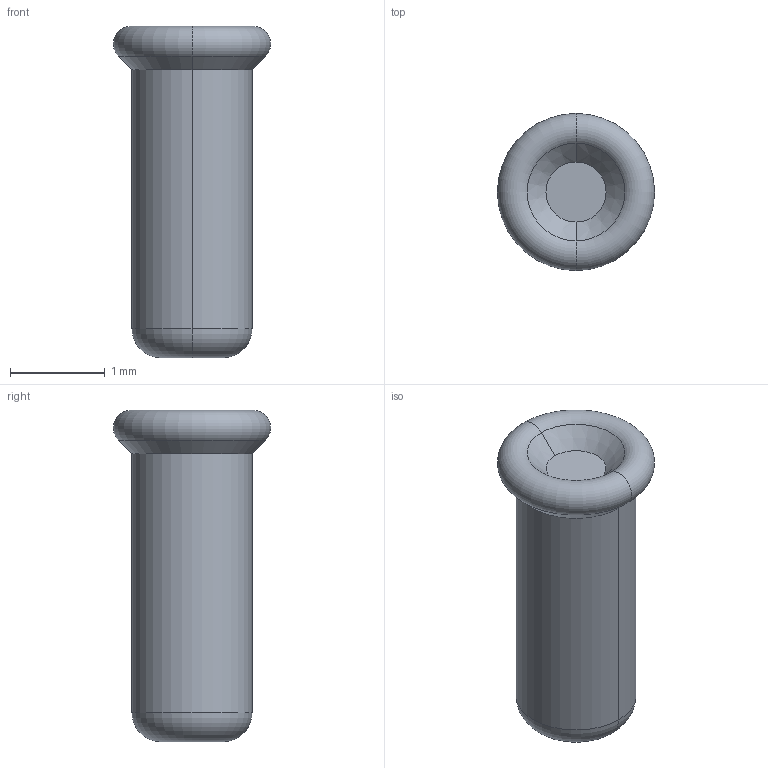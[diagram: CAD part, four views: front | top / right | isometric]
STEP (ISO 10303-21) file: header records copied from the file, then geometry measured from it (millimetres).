
FILE_DESCRIPTION((''),'2;1');
FILE_NAME('C-2-5331272-5','2012-07-12T',('workeradm'),('Tyco Electronics Ltd.'),'PRO/ENGINEER BY PARAMETRIC TECHNOLOGY CORPORATION, 2010430','PRO/ENGINEER BY PARAMETRIC TECHNOLOGY CORPORATION, 2010430','');
FILE_SCHEMA(('AUTOMOTIVE_DESIGN { 1 0 10303 214 1 1 1 1 }'));
Length unit declared in the file: millimetre
Products named in the file (1): C-2-5331272-5
Bounding box: 1.66 x 1.66 x 3.5 mm (x, y, z)
Volume: 4.5 mm3; surface area: 17.5 mm2
Topology: 1 solids, 1 shells, 12 faces, 22 edges, 12 vertices
Faces by surface type: torus 4, cone 4, cylinder 2, plane 2
Entity records: 653 total; most frequent: COLOUR_RGB 64, DIRECTION 62, CARTESIAN_POINT 48, PROPERTY_DEFINITION 47, REPRESENTATION 46, PROPERTY_DEFINITION_REPRESENTATION 46, ORIENTED_EDGE 44, GENERAL_PROPERTY 40
